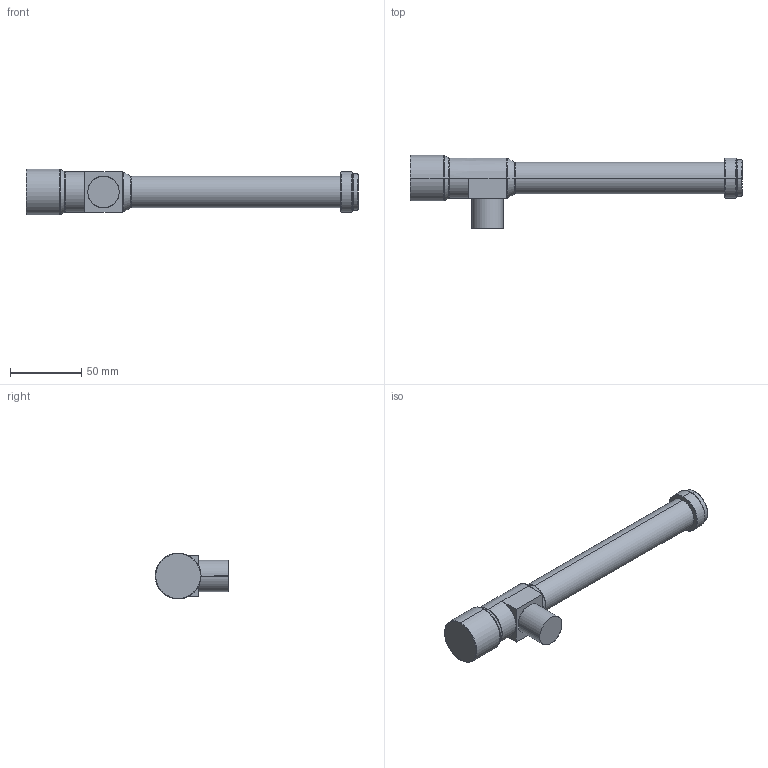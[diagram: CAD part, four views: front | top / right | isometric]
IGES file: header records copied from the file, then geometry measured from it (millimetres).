
Start section: SolidWorks IGES file using analytic representation for surfaces
Global section: file name: C:\Users\Administrator\Desktop\WWH100-108CTV3.IGS; native system: SolidWorks 2017; preprocessor: SolidWorks 2017; author: Administrator; date: 210514.180339; units: millimetre
Bounding box: 232.2 x 51.4 x 32 mm (x, y, z)
Surface area: 21627.9 mm2 (no closed solid volume)
Topology: 0 solids, 0 shells, 48 faces, 584 edges, 584 vertices
Faces by surface type: revolution 27, bspline 21
